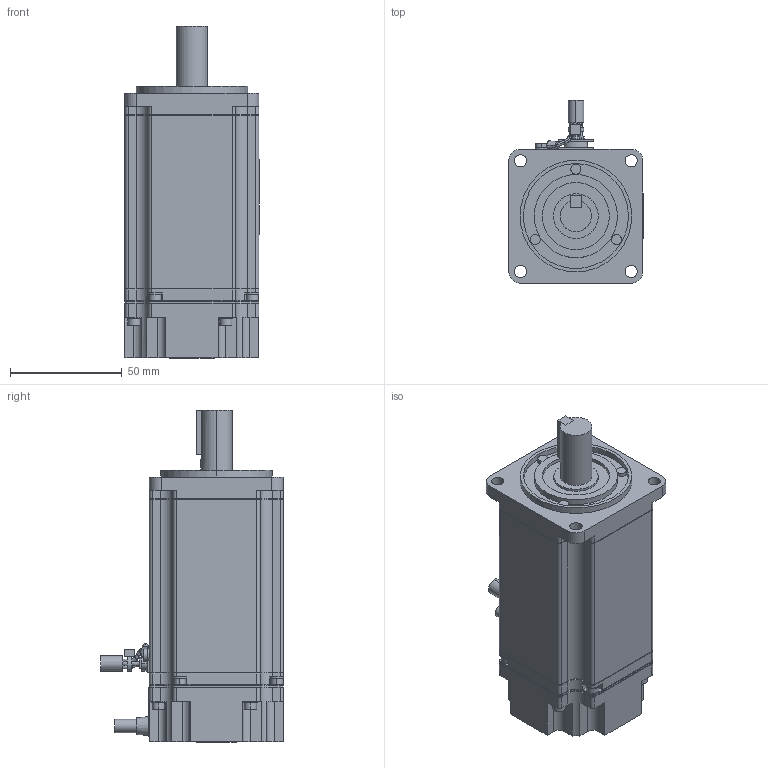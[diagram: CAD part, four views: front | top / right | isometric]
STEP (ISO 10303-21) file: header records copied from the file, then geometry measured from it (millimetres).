
FILE_DESCRIPTION (( 'STEP AP203' ), '1' );
FILE_NAME ('sjme_04amb41.STEP', '2011-11-08T23:38:17', ( '匠エンジニアリング山之内' ), ( 'TAKUMI-Engniaring' ), 'SwSTEP 2.0', 'SolidWorks 2006303', '' );
FILE_SCHEMA (( 'CONFIG_CONTROL_DESIGN' ));
Length unit declared in the file: millimetre
Products named in the file (3): sjme_04amb41_key; sjme_04amb41_base; sjme_04amb41
Assembly tree (2 placements, depth 2):
  sjme_04amb41
    sjme_04amb41_base
    sjme_04amb41_key
Bounding box: 60.1 x 81.9 x 148.6 mm (x, y, z)
Volume: 380541.6 mm3; surface area: 39595.3 mm2
Topology: 2 solids, 2 shells, 476 faces, 1285 edges, 844 vertices
Faces by surface type: plane 251, cylinder 194, bspline 29, cone 2
Entity records: 16086 total; most frequent: CARTESIAN_POINT 3559, DIRECTION 2575, ORIENTED_EDGE 2570, EDGE_CURVE 1285, AXIS2_PLACEMENT_3D 889, VERTEX_POINT 844, VECTOR 797, LINE 797
